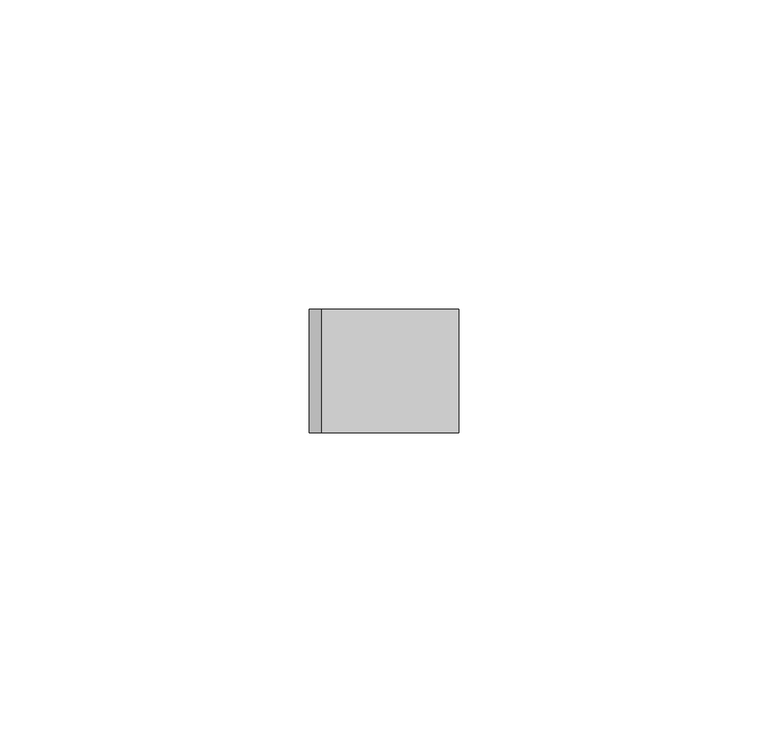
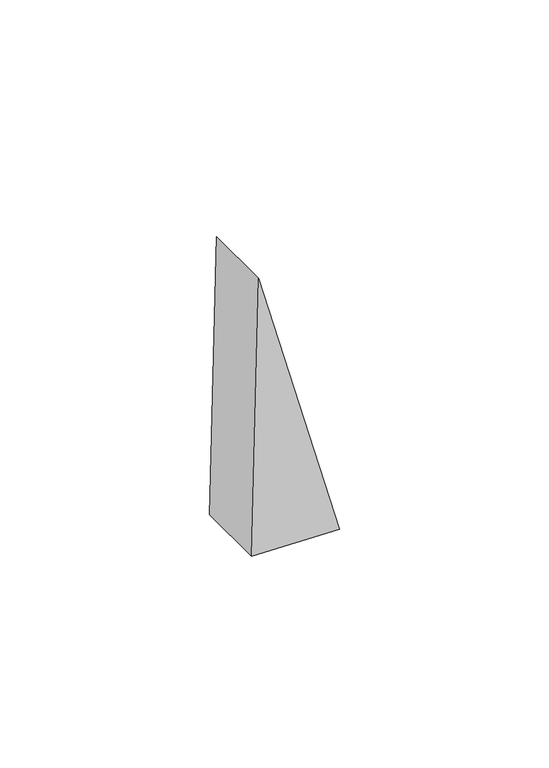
"""IFC4 building model written with IfcOpenShell, lengths in millimetres: plate geometry, 空系统嵌板 : 空."""

from ifc_helpers import new_model, si_unit, frame, origin, place, context, project, spatial, polyline, outline, extrude, source, transform, mapped, element, save


def plate_1e680183(model_context):
    return source(origin(), model_context, "Body", "SweptSolid", [
        extrude(outline(polyline([(0.5507721, -12.1165138), (0.0, 12.1165138), (80.8487963, -10.1745741), (0.5507721, -12.1165138)])), frame((0.0, -10.0, 0.0), z_axis=(0.0, 1.0, 0.0), x_axis=(0.0, 0.0, 1.0)), (0.0, 0.0, 1.0), 20.0),
    ])


if __name__ == "__main__":
    model = new_model("IFC4")
    model_context = context("Model", 3, world=origin())
    ifc_project = project(units=[si_unit("LENGTHUNIT", "METRE", prefix="MILLI")], contexts=[model_context])
    site = spatial("IfcSite", under=ifc_project)
    building = spatial("IfcBuilding", under=site)
    placement = place(None, origin())
    plate_shape = plate_1e680183(model_context)
    element("IfcPlate", 1, ObjectType="空系统嵌板 : 空", at=placement, inside=building, context=model_context, shape_type="MappedRepresentation", body=[
        mapped(plate_shape, transform((0.0, 0.0, 0.0), x_axis=(1.0, 0.0, 0.0), y_axis=(0.0, 1.0, 0.0), z_axis=(0.0, 0.0, 1.0))),
    ])
    save(model, "model.ifc")
